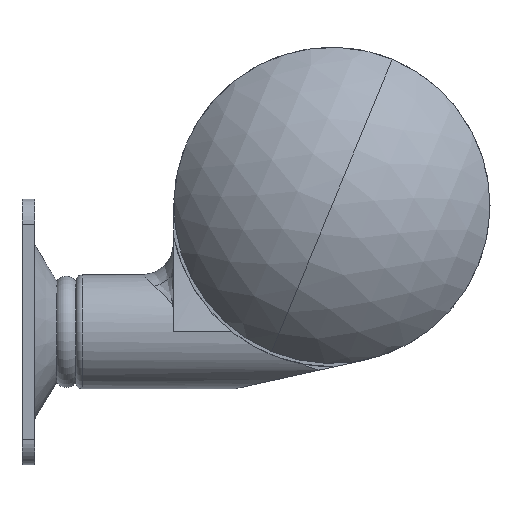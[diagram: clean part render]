
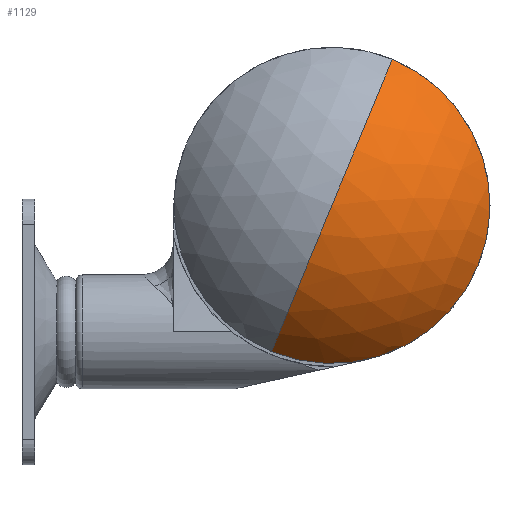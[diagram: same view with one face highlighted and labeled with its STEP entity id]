
A CAD part, left-side view. The second image highlights one B-rep face of the part: STEP entity #1129.
In plain terms, the highlighted spherical face has radius 30 mm.
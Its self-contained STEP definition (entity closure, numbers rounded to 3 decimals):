
#45 = FACE_OUTER_BOUND ( 'NONE', #887, .T. ) ;
#206 = ORIENTED_EDGE ( 'NONE', *, *, #1529, .T. ) ;
#220 = CARTESIAN_POINT ( 'NONE',  ( -3.5, 0., 0. ) ) ;
#342 = AXIS2_PLACEMENT_3D ( 'NONE', #220, #1433, #389 ) ;
#389 = DIRECTION ( 'NONE',  ( 0., 1., 0. ) ) ;
#522 = EDGE_CURVE ( 'NONE', #1918, #1998, #2125, .T. ) ;
#548 = CIRCLE ( 'NONE', #1499, 30. ) ;
#611 = DIRECTION ( 'NONE',  ( 0., 0., 1. ) ) ;
#762 = SPHERICAL_SURFACE ( 'NONE', #342, 30. ) ;
#793 = VERTEX_POINT ( 'NONE', #2201 ) ;
#836 = CARTESIAN_POINT ( 'NONE',  ( -3.5, 0., 0. ) ) ;
#839 = AXIS2_PLACEMENT_3D ( 'NONE', #2132, #2116, #1262 ) ;
#887 = EDGE_LOOP ( 'NONE', ( #1317, #206, #2024, #1685 ) ) ;
#932 = DIRECTION ( 'NONE',  ( -1., 0., 0. ) ) ;
#1000 = DIRECTION ( 'NONE',  ( 1., 0., 0. ) ) ;
#1027 = CARTESIAN_POINT ( 'NONE',  ( 13.083, 0., 0. ) ) ;
#1044 = EDGE_CURVE ( 'NONE', #793, #1918, #1388, .T. ) ;
#1129 = ADVANCED_FACE ( 'NONE', ( #45 ), #762, .T. ) ;
#1160 = DIRECTION ( 'NONE',  ( 0., 0., 1. ) ) ;
#1193 = CARTESIAN_POINT ( 'NONE',  ( 13.083, 0., 25. ) ) ;
#1213 = CIRCLE ( 'NONE', #1426, 25. ) ;
#1262 = DIRECTION ( 'NONE',  ( 0., 1., 0. ) ) ;
#1317 = ORIENTED_EDGE ( 'NONE', *, *, #1044, .F. ) ;
#1388 = CIRCLE ( 'NONE', #839, 30. ) ;
#1426 = AXIS2_PLACEMENT_3D ( 'NONE', #1027, #2076, #2211 ) ;
#1427 = AXIS2_PLACEMENT_3D ( 'NONE', #1777, #932, #611 ) ;
#1433 = DIRECTION ( 'NONE',  ( 0., 0., -1. ) ) ;
#1499 = AXIS2_PLACEMENT_3D ( 'NONE', #836, #1160, #1000 ) ;
#1518 = CARTESIAN_POINT ( 'NONE',  ( 13.083, 25., 0. ) ) ;
#1529 = EDGE_CURVE ( 'NONE', #793, #1638, #548, .T. ) ;
#1638 = VERTEX_POINT ( 'NONE', #1518 ) ;
#1685 = ORIENTED_EDGE ( 'NONE', *, *, #522, .F. ) ;
#1777 = CARTESIAN_POINT ( 'NONE',  ( 13.083, 0., 0. ) ) ;
#1873 = CARTESIAN_POINT ( 'NONE',  ( 13.083, -25., 0. ) ) ;
#1918 = VERTEX_POINT ( 'NONE', #1873 ) ;
#1973 = EDGE_CURVE ( 'NONE', #1998, #1638, #1213, .T. ) ;
#1998 = VERTEX_POINT ( 'NONE', #1193 ) ;
#2024 = ORIENTED_EDGE ( 'NONE', *, *, #1973, .F. ) ;
#2076 = DIRECTION ( 'NONE',  ( -1., 0., 0. ) ) ;
#2116 = DIRECTION ( 'NONE',  ( 0., 0., -1. ) ) ;
#2125 = CIRCLE ( 'NONE', #1427, 25. ) ;
#2132 = CARTESIAN_POINT ( 'NONE',  ( -3.5, 0., 0. ) ) ;
#2201 = CARTESIAN_POINT ( 'NONE',  ( 26.5, 0., 0. ) ) ;
#2211 = DIRECTION ( 'NONE',  ( 0., 0., 1. ) ) ;
